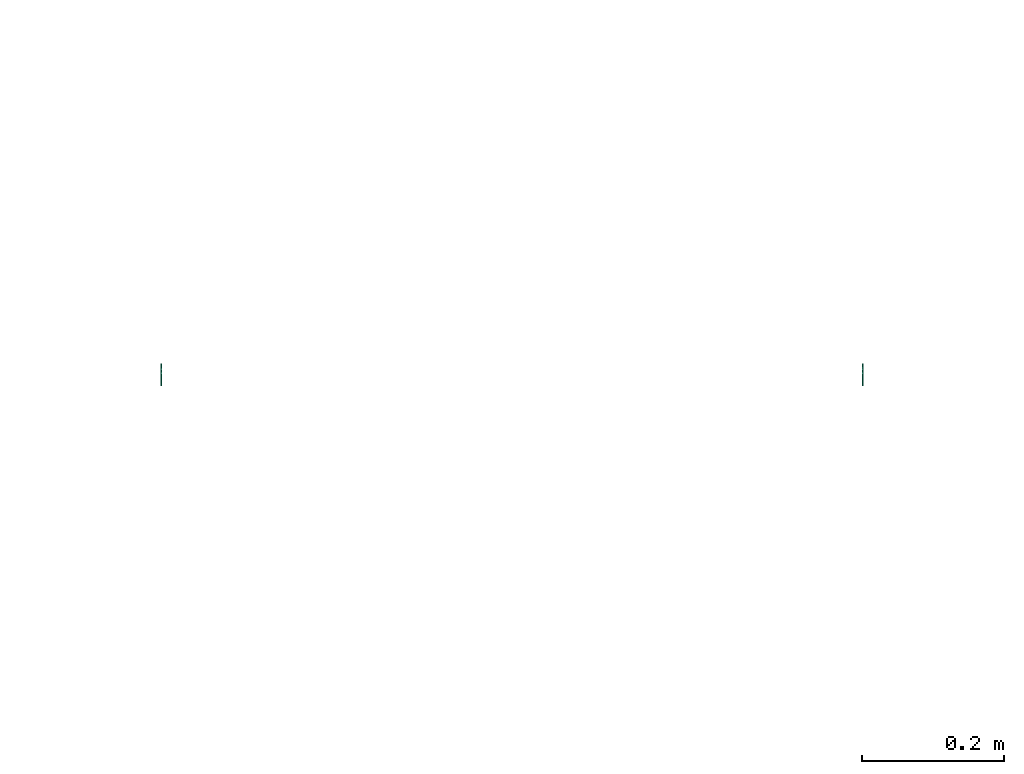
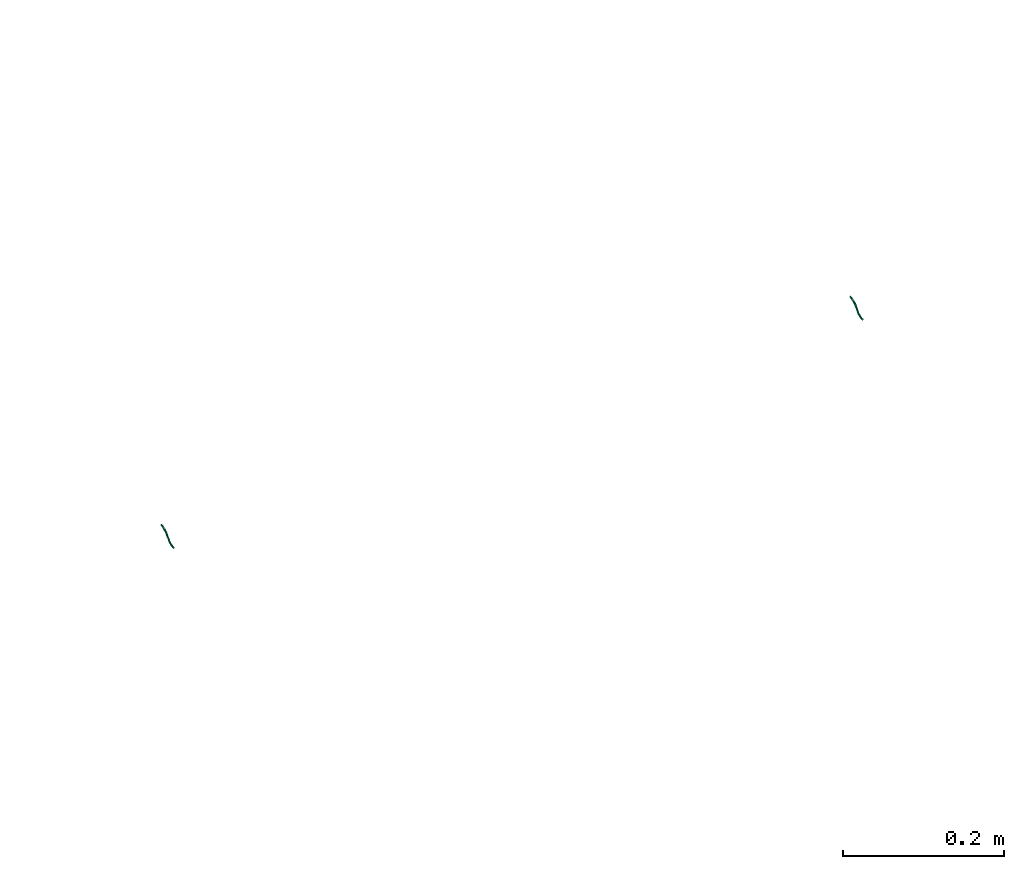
# One storey, part 47 of 197: 2 distribution control elements.
"""IFC2X3 building model written with IfcOpenShell, lengths in metres."""

from ifc_helpers import new_model, entity, si_unit, converted_unit, direction, frame, origin, place, context, subcontext, project, spatial, faceted_brep, source, transform, mapped, material, type_object, type_shapes, element, save


model = new_model("IFC2X3")

# Units and contexts
model_context = context("Model", 3, precision=1e-05, world=origin(), true_north=direction((6.123031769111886e-17, 1.0)))
body_context = subcontext(model_context, "Body", "Model", "MODEL_VIEW")
ifc_project = project(units=[si_unit("LENGTHUNIT", "METRE"), converted_unit("PLANEANGLEUNIT", "DEGREE", entity("IfcPlaneAngleMeasure", 0.017453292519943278), si_unit("PLANEANGLEUNIT", "RADIAN"), dimensions=[0, 0, 0, 0, 0, 0, 0]), si_unit("AREAUNIT", "SQUARE_METRE")], contexts=[model_context])

# Site, building, storey
site_placement = place(None, origin())
site = spatial("IfcSite", under=ifc_project, at=site_placement, Name="Default", CompositionType="ELEMENT")
building_placement = place(site_placement, origin())
building = spatial("IfcBuilding", under=site, at=building_placement, CompositionType="ELEMENT")
storey_placement = place(building_placement, origin())
storey = spatial("IfcBuildingStorey", under=building, at=storey_placement, Name="Niveau 0", CompositionType="ELEMENT", Elevation=0.0)

# Distribution control elements
ifc_material = material(Name="<Unnamed>")
alarm_type_1 = type_object("IfcAlarmType", Name="Attente incendie 100e:DAS", PredefinedType="NOTDEFINED", material=ifc_material)
shared_shape_1 = source(origin(), body_context, "Body", "Brep", [
    faceted_brep([(0.00015679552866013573, 0.02468901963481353, 0.0071236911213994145), (-0.0008432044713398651, 0.024606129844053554, 0.00812024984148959), (0.00015679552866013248, 0.024523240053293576, 0.009116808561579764), (0.0011567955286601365, 0.024606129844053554, 0.008120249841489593), (0.0010682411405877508, 0.020307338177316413, 0.007781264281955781), (0.0001567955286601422, 0.020902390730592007, 0.005938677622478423), (0.0011263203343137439, 0.017575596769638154, 0.006150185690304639), (0.0001567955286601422, 0.015326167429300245, 0.00419361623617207), (0.00015679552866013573, 0.020007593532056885, 0.005658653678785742), (0.00015679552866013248, 0.014326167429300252, 0.005925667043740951), (0.0009522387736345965, 0.011698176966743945, 0.0036743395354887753), (0.0009420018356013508, 0.015917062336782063, 0.006344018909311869), (0.00015679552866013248, 0.010395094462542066, 0.0023079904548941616), (0.00015679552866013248, 0.009383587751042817, 0.0013771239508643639), (0.00015679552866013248, 0.006464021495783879, -0.00130968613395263), (0.0006567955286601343, 0.006874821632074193, -0.0015947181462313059), (0.0011567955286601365, 0.007285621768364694, -0.0018797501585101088), (0.0001567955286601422, 0.008107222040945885, -0.002449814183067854), (0.0010477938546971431, 0.01190066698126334, 0.002476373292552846), (0.0001567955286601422, 0.011716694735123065, 0.000871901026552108), (0.00015679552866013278, 0.020736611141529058, 0.007931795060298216), (0.00015679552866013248, 0.01942470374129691, 0.0075212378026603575), (-0.000613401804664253, 0.017791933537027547, 0.005814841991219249), (-0.0008432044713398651, 0.007285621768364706, -0.0018797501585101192), (-0.0006561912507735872, 0.013063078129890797, 0.003217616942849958), (-0.0007811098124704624, 0.017711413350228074, 0.006845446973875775), (-0.000757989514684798, 0.011606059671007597, 0.0033430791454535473), (0.00015679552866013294, -0.006217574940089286, -0.0072232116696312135), (-0.0008432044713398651, -0.006308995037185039, -0.00821902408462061), (-0.00022603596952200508, -0.006365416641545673, -0.00883360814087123), (0.00015679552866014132, -0.006400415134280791, -0.009214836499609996), (0.0011567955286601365, -0.006308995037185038, -0.008219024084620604), (0.0005396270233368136, -0.006252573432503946, -0.0076044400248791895), (0.0001567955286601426, 0.00342572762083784, -0.0063951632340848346), (0.0008639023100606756, 0.004493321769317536, -0.005806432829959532), (0.0009254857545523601, 0.0019625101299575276, -0.007298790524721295), (0.00015679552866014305, -0.002505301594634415, -0.008536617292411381), (0.00015679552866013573, 0.00493736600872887, -0.005121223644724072), (0.00015679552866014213, 0.005083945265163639, -0.0049976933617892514), (0.00015679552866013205, -0.002322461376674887, -0.006544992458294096), (0.00015679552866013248, -0.002647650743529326, -0.006601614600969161), (0.0009203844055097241, 0.004301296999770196, -0.0042243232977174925), (0.00015679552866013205, 0.0036931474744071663, -0.003644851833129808), (0.00015679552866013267, 0.0034407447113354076, -0.0038575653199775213), (0.00015679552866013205, 0.0009222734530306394, -0.005980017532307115), (0.0010089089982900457, -0.0014622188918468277, -0.008405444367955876), (0.001064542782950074, -0.00036395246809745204, -0.0071166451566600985), (0.0011567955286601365, 0.003257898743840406, -0.0058162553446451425), (0.00015679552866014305, 0.0017675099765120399, -0.007792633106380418), (0.001078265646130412, -0.0034805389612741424, -0.007818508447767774), (0.0011516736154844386, 0.005514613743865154, -0.004127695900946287), (-0.0006872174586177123, 0.004983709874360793, -0.0037543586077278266), (-0.0008432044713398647, 0.0028123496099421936, -0.006099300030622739), (-0.0006218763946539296, -0.0034380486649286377, -0.008835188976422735), (-0.0008173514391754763, -0.003105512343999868, -0.007939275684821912), (-0.0007245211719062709, -0.0005251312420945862, -0.008103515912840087), (-0.000725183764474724, 0.005518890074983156, -0.004634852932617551), (-0.0006856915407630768, -0.0001638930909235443, -0.006921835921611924)], [[[0, 1, 2, 3]], [[2, 4, 3]], [[3, 5, 0]], [[6, 5, 3]], [[6, 7, 8, 5]], [[9, 10, 11]], [[10, 9, 12, 13]], [[13, 14, 15, 16]], [[16, 10, 13]], [[17, 18, 16]], [[18, 17, 19, 7]], [[11, 10, 18]], [[6, 18, 7]], [[11, 18, 6]], [[10, 16, 18]], [[4, 6, 3]], [[4, 11, 6]], [[4, 2, 20, 21]], [[21, 9, 11]], [[21, 11, 4]], [[22, 1, 0]], [[23, 24, 19]], [[25, 9, 21, 20]], [[25, 20, 1]], [[7, 24, 22]], [[25, 24, 26]], [[24, 7, 19]], [[24, 23, 26]], [[23, 12, 26]], [[20, 2, 1]], [[25, 22, 24]], [[9, 25, 26]], [[17, 23, 19]], [[1, 22, 25]], [[22, 0, 5, 8, 7]], [[23, 14, 13, 12]], [[12, 9, 26]], [[27, 28, 29, 30, 31, 32]], [[33, 34, 35]], [[31, 30, 36]], [[34, 33, 37, 38]], [[32, 39, 40, 27]], [[41, 14, 42, 43, 44]], [[45, 31, 36]], [[44, 46, 47]], [[39, 46, 44]], [[48, 33, 35]], [[15, 14, 41]], [[35, 46, 45]], [[49, 32, 31]], [[45, 46, 49]], [[16, 50, 17]], [[32, 49, 39]], [[39, 49, 46]], [[31, 45, 49]], [[48, 45, 36]], [[47, 35, 34]], [[50, 38, 17]], [[50, 47, 34]], [[46, 35, 47]], [[45, 48, 35]], [[50, 34, 38]], [[41, 47, 50]], [[50, 16, 15]], [[47, 41, 44]], [[15, 41, 50]], [[43, 51, 52]], [[51, 14, 23]], [[43, 52, 44]], [[53, 54, 55]], [[56, 17, 38, 37, 33, 48]], [[54, 53, 28]], [[48, 55, 52]], [[52, 55, 57]], [[56, 52, 51]], [[52, 57, 44]], [[54, 57, 55]], [[48, 36, 55]], [[40, 57, 54]], [[36, 30, 29]], [[54, 27, 40]], [[57, 40, 39, 44]], [[54, 28, 27]], [[53, 55, 36]], [[36, 29, 53]], [[28, 53, 29]], [[51, 43, 42, 14]], [[52, 56, 48]], [[56, 51, 23]], [[17, 56, 23]]]),
])
type_shapes(alarm_type_1, [shared_shape_1])
distribution_control_element_1_placement = place(storey_placement, frame((-511.805595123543, -25.975991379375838, 0.0)))
element("IfcDistributionControlElement", 1, at=distribution_control_element_1_placement, inside=storey, type_object=alarm_type_1, material=ifc_material, Name="Attente incendie 100e:DAS", ObjectType="Attente incendie 100e:DAS", context=body_context, shape_type="MappedRepresentation", body=[
    mapped(shared_shape_1, transform((0.0, 0.0, 0.0), scale=1.0)),
])
alarm_type_2 = type_object("IfcAlarmType", Name="Attente incendie 100e:DESENFUMAGE", PredefinedType="NOTDEFINED", material=ifc_material)
shared_shape_2 = source(origin(), body_context, "Body", "Brep", [
    faceted_brep([(0.00015679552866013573, 0.02468901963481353, 0.0071236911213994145), (-0.0008432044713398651, 0.024606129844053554, 0.00812024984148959), (0.00015679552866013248, 0.024523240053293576, 0.009116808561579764), (0.0011567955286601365, 0.024606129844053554, 0.008120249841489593), (0.0010682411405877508, 0.020307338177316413, 0.007781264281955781), (0.0001567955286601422, 0.020902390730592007, 0.005938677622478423), (0.0011263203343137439, 0.017575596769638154, 0.006150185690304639), (0.0001567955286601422, 0.015326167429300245, 0.00419361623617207), (0.00015679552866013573, 0.020007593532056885, 0.005658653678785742), (0.00015679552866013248, 0.014326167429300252, 0.005925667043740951), (0.0009522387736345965, 0.011698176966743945, 0.0036743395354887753), (0.0009420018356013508, 0.015917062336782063, 0.006344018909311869), (0.00015679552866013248, 0.010395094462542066, 0.0023079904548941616), (0.00015679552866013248, 0.009383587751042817, 0.0013771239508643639), (0.00015679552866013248, 0.006464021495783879, -0.00130968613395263), (0.0006567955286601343, 0.006874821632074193, -0.0015947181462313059), (0.0011567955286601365, 0.007285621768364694, -0.0018797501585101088), (0.0001567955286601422, 0.008107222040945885, -0.002449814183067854), (0.0010477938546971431, 0.01190066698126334, 0.002476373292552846), (0.0001567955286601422, 0.011716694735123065, 0.000871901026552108), (0.00015679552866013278, 0.020736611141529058, 0.007931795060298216), (0.00015679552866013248, 0.01942470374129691, 0.0075212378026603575), (-0.000613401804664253, 0.017791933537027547, 0.005814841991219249), (-0.0008432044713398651, 0.007285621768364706, -0.0018797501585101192), (-0.0006561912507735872, 0.013063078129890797, 0.003217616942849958), (-0.0007811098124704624, 0.017711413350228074, 0.006845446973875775), (-0.000757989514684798, 0.011606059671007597, 0.0033430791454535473), (0.00015679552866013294, -0.006217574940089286, -0.0072232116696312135), (-0.0008432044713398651, -0.006308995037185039, -0.00821902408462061), (-0.00022603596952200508, -0.006365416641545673, -0.00883360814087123), (0.00015679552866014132, -0.006400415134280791, -0.009214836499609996), (0.0011567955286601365, -0.006308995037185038, -0.008219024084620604), (0.0005396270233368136, -0.006252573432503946, -0.0076044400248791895), (0.0001567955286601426, 0.00342572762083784, -0.0063951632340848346), (0.0008639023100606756, 0.004493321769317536, -0.005806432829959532), (0.0009254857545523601, 0.0019625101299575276, -0.007298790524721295), (0.00015679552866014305, -0.002505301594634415, -0.008536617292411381), (0.00015679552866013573, 0.00493736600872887, -0.005121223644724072), (0.00015679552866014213, 0.005083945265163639, -0.0049976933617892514), (0.00015679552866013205, -0.002322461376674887, -0.006544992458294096), (0.00015679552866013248, -0.002647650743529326, -0.006601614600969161), (0.0009203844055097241, 0.004301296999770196, -0.0042243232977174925), (0.00015679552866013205, 0.0036931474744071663, -0.003644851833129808), (0.00015679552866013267, 0.0034407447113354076, -0.0038575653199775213), (0.00015679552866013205, 0.0009222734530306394, -0.005980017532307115), (0.0010089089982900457, -0.0014622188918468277, -0.008405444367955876), (0.001064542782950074, -0.00036395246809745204, -0.0071166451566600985), (0.0011567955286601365, 0.003257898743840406, -0.0058162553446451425), (0.00015679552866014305, 0.0017675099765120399, -0.007792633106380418), (0.001078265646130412, -0.0034805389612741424, -0.007818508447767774), (0.0011516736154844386, 0.005514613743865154, -0.004127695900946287), (-0.0006872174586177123, 0.004983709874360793, -0.0037543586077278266), (-0.0008432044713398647, 0.0028123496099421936, -0.006099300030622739), (-0.0006218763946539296, -0.0034380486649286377, -0.008835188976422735), (-0.0008173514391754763, -0.003105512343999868, -0.007939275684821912), (-0.0007245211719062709, -0.0005251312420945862, -0.008103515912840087), (-0.000725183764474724, 0.005518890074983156, -0.004634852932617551), (-0.0006856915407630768, -0.0001638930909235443, -0.006921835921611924)], [[[0, 1, 2, 3]], [[2, 4, 3]], [[3, 5, 0]], [[6, 5, 3]], [[6, 7, 8, 5]], [[9, 10, 11]], [[10, 9, 12, 13]], [[13, 14, 15, 16]], [[16, 10, 13]], [[17, 18, 16]], [[18, 17, 19, 7]], [[11, 10, 18]], [[6, 18, 7]], [[11, 18, 6]], [[10, 16, 18]], [[4, 6, 3]], [[4, 11, 6]], [[4, 2, 20, 21]], [[21, 9, 11]], [[21, 11, 4]], [[22, 1, 0]], [[23, 24, 19]], [[25, 9, 21, 20]], [[25, 20, 1]], [[7, 24, 22]], [[25, 24, 26]], [[24, 7, 19]], [[24, 23, 26]], [[23, 12, 26]], [[20, 2, 1]], [[25, 22, 24]], [[9, 25, 26]], [[17, 23, 19]], [[1, 22, 25]], [[22, 0, 5, 8, 7]], [[23, 14, 13, 12]], [[12, 9, 26]], [[27, 28, 29, 30, 31, 32]], [[33, 34, 35]], [[31, 30, 36]], [[34, 33, 37, 38]], [[32, 39, 40, 27]], [[41, 14, 42, 43, 44]], [[45, 31, 36]], [[44, 46, 47]], [[39, 46, 44]], [[48, 33, 35]], [[15, 14, 41]], [[35, 46, 45]], [[49, 32, 31]], [[45, 46, 49]], [[16, 50, 17]], [[32, 49, 39]], [[39, 49, 46]], [[31, 45, 49]], [[48, 45, 36]], [[47, 35, 34]], [[50, 38, 17]], [[50, 47, 34]], [[46, 35, 47]], [[45, 48, 35]], [[50, 34, 38]], [[41, 47, 50]], [[50, 16, 15]], [[47, 41, 44]], [[15, 41, 50]], [[43, 51, 52]], [[51, 14, 23]], [[43, 52, 44]], [[53, 54, 55]], [[56, 17, 38, 37, 33, 48]], [[54, 53, 28]], [[48, 55, 52]], [[52, 55, 57]], [[56, 52, 51]], [[52, 57, 44]], [[54, 57, 55]], [[48, 36, 55]], [[40, 57, 54]], [[36, 30, 29]], [[54, 27, 40]], [[57, 40, 39, 44]], [[54, 28, 27]], [[53, 55, 36]], [[36, 29, 53]], [[28, 53, 29]], [[51, 43, 42, 14]], [[52, 56, 48]], [[56, 51, 23]], [[17, 56, 23]]]),
])
type_shapes(alarm_type_2, [shared_shape_2])
distribution_control_element_2_placement = place(storey_placement, frame((-510.81659512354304, -25.975991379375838, 0.0)))
element("IfcDistributionControlElement", 2, at=distribution_control_element_2_placement, inside=storey, type_object=alarm_type_2, material=ifc_material, Name="Attente incendie 100e:DESENFUMAGE", ObjectType="Attente incendie 100e:DESENFUMAGE", context=body_context, shape_type="MappedRepresentation", body=[
    mapped(shared_shape_2, transform((0.0, 0.0, 0.0), scale=1.0)),
])

save(model, "model.ifc")
